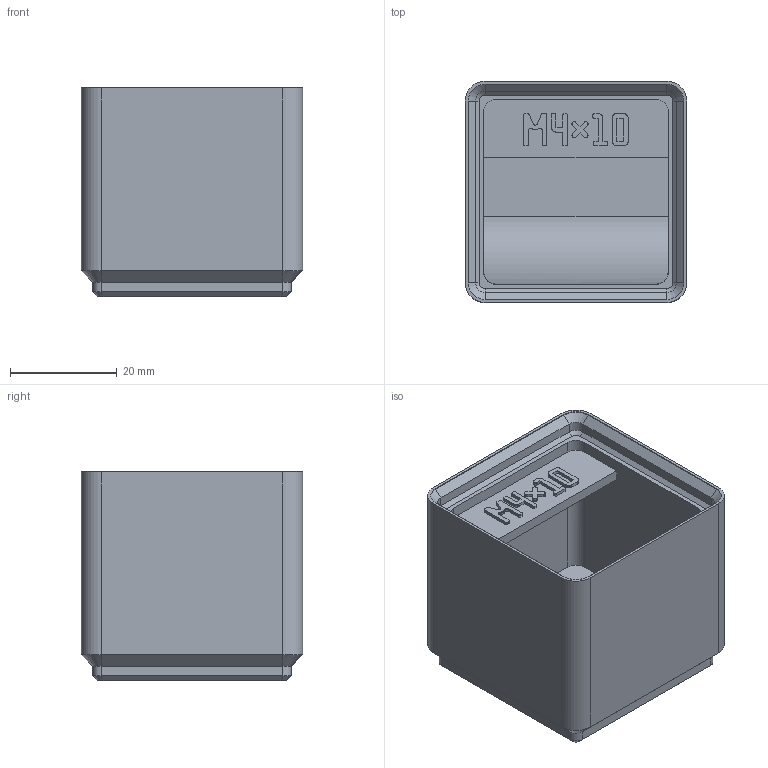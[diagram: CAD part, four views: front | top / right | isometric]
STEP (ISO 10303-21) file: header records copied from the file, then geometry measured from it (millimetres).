
FILE_DESCRIPTION(('Open CASCADE Model'),'2;1');
FILE_NAME('m4-screw-10','2026-11-17T16:08:14',('Author'),('Open CASCADE' ),'Open CASCADE STEP processor 8.0','build123d','Unknown');
FILE_SCHEMA(('AUTOMOTIVE_DESIGN { 1 0 10303 214 1 1 1 1 }'));
Length unit declared in the file: millimetre
Products named in the file (1): m4-screw-10
Bounding box: 41.5 x 41.5 x 39 mm (x, y, z)
Volume: 30861.5 mm3; surface area: 13677.3 mm2
Topology: 1 solids, 1 shells, 529 faces, 1509 edges, 990 vertices
Faces by surface type: plane 490, cylinder 22, cone 16, extrusion 1
Entity records: 35788 total; most frequent: CARTESIAN_POINT 7450, DIRECTION 4594, VECTOR 3414, LINE 3413, ORIENTED_EDGE 3018, PCURVE 3018, DEFINITIONAL_REPRESENTATION 3018, EDGE_CURVE 1509
